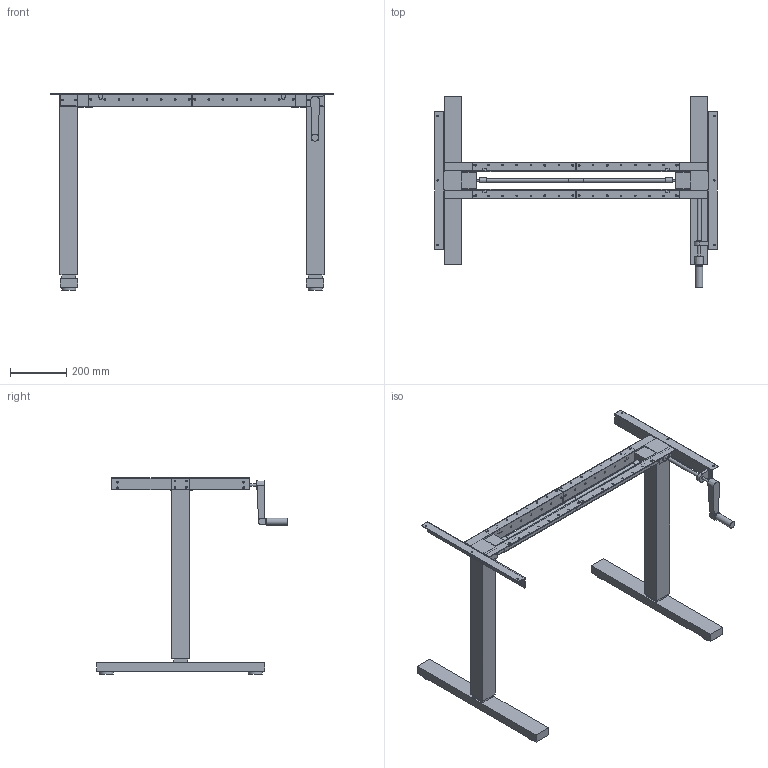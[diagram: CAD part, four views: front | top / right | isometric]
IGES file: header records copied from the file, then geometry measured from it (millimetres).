
Start section: Data from Parasolid IGES Translator 20.0.26, Copyright(c) 2006 Siemens P LM Software. All Rights Reserved.
Global section: file name: 9309795.igs; native system: By Siemens PLM Incorporated; preprocessor: XPlus GENERIC/IGES 20.0.26; author: Noname; organization: Noname; date: 20220302.130117; units: millimetre
Bounding box: 1005 x 679 x 700 mm (x, y, z)
Surface area: 1346087.3 mm2 (no closed solid volume)
Topology: 0 solids, 0 shells, 331 faces, 1732 edges, 1533 vertices
Faces by surface type: extrusion 177, revolution 154
